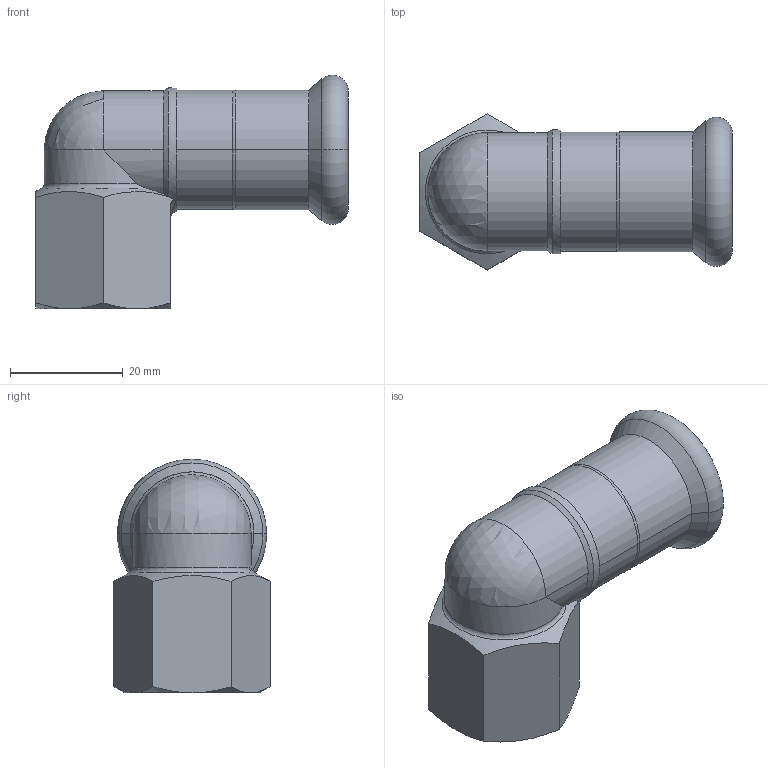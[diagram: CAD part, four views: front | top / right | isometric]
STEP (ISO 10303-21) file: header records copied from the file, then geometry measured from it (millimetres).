
FILE_DESCRIPTION(('Creo Elements/Direct Modeling STEP Export'),'2;1');
FILE_NAME('R2709 18xRp1-2.stp','2019-09-24T16:31:02',(''),(''),'PTC Creo Elements/Direct Modeling STEP processor for AP214 (Solid Model)','PTC Creo Elements/Direct Modeling 19.0C 15-Aug-2015 (C) Parametric Technology GmbH','');
FILE_SCHEMA(('AUTOMOTIVE_DESIGN { 1 0 10303 214 1 1 1 1 }'));
Length unit declared in the file: millimetre
Products named in the file (2): R2709_18xRp1-2
Assembly tree (1 placements, depth 2):
  R2709_18xRp1-2
    R2709_18xRp1-2
Bounding box: 55.5 x 27.71 x 41.45 mm (x, y, z)
Volume: 11519.4 mm3; surface area: 10231 mm2
Topology: 1 solids, 1 shells, 89 faces, 223 edges, 139 vertices
Faces by surface type: plane 40, cylinder 29, cone 12, torus 6, sphere 2
Entity records: 3904 total; most frequent: CARTESIAN_POINT 1825, ORIENTED_EDGE 438, DIRECTION 391, EDGE_CURVE 219, AXIS2_PLACEMENT_3D 144, VERTEX_POINT 139, EDGE_LOOP 104, VECTOR 103
